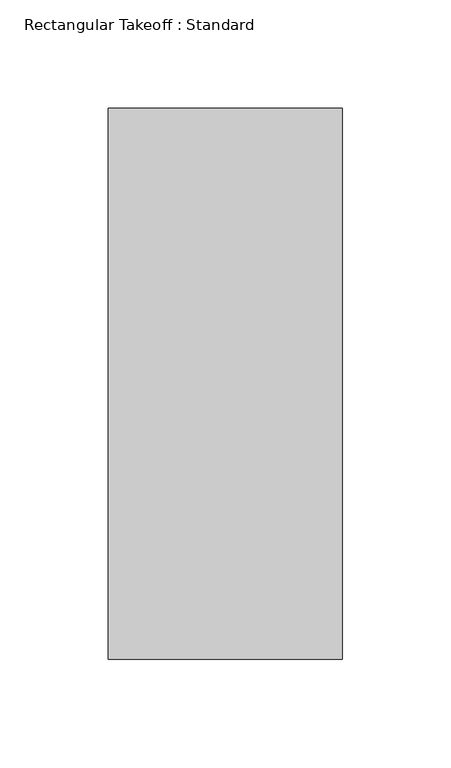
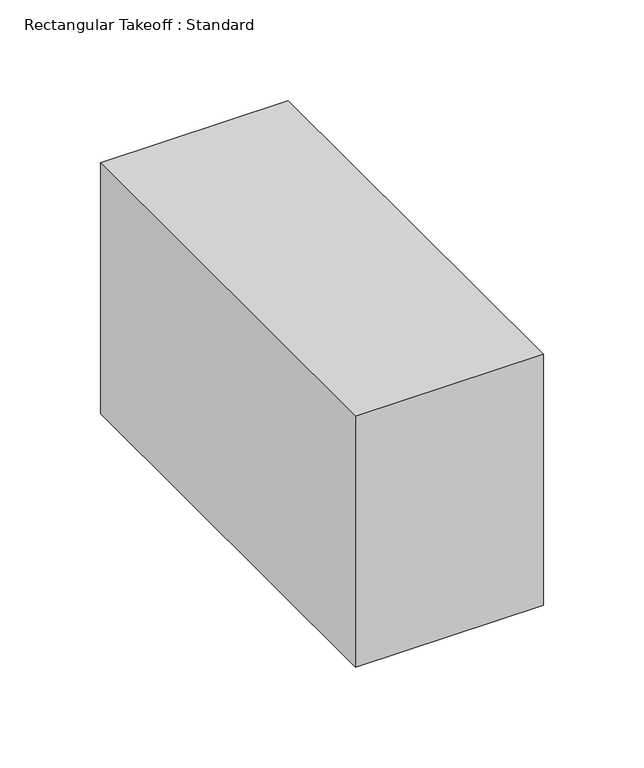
"""IFC4 building model written with IfcOpenShell, lengths in millimetres: duct fitting geometry, Rectangular Takeoff : Standard."""

from ifc_helpers import new_model, si_unit, frame, origin, place, context, project, spatial, polyline, outline, extrude, source, transform, mapped, element, save


def rectangular_takeoff_standard_c6066038(model_context):
    return source(origin(), model_context, "Body", "SweptSolid", [
        extrude(outline(polyline([(-6.096, -127.0), (-6.096, 127.0), (101.6, 127.0), (101.6, -127.0), (-6.096, -127.0)])), frame((0.0, 0.0, -76.2), z_axis=(0.0, 0.0, 1.0), x_axis=(1.0, 0.0, 0.0)), (0.0, 0.0, 1.0), 152.4),
    ])


if __name__ == "__main__":
    model = new_model("IFC4")
    model_context = context("Model", 3, world=origin())
    ifc_project = project(units=[si_unit("LENGTHUNIT", "METRE", prefix="MILLI")], contexts=[model_context])
    site = spatial("IfcSite", under=ifc_project)
    building = spatial("IfcBuilding", under=site)
    placement = place(None, origin())
    rectangular_takeoff_standard_shape = rectangular_takeoff_standard_c6066038(model_context)
    element("IfcDuctFitting", 1, ObjectType="Rectangular Takeoff : Standard", at=placement, inside=building, context=model_context, shape_type="MappedRepresentation", body=[
        mapped(rectangular_takeoff_standard_shape, transform((0.0, 0.0, 0.0), x_axis=(1.0, 0.0, 0.0), y_axis=(0.0, 1.0, 0.0), z_axis=(0.0, 0.0, 1.0))),
    ])
    save(model, "model.ifc")
